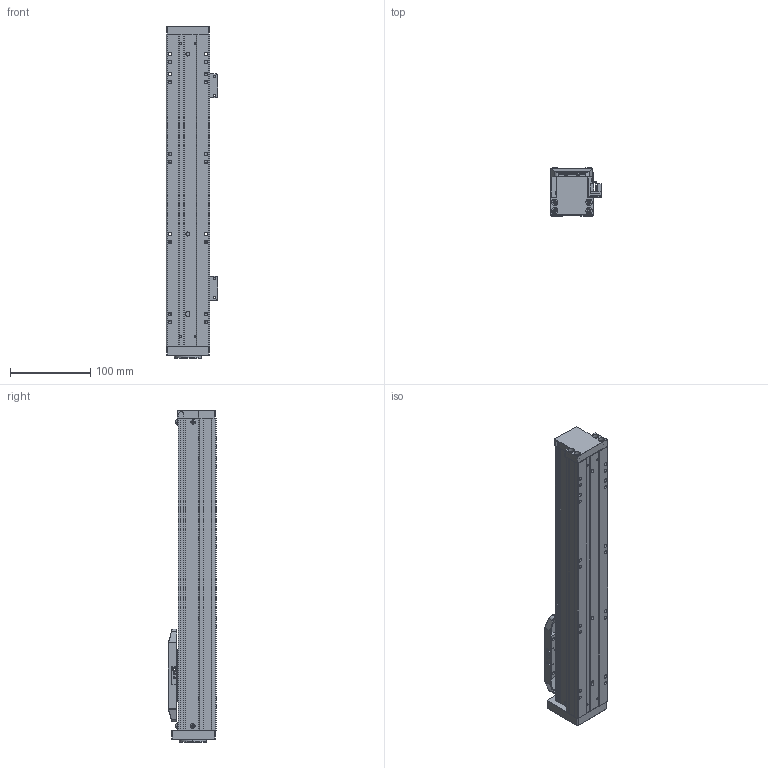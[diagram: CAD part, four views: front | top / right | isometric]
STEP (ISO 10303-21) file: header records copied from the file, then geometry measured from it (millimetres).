
FILE_DESCRIPTION (( 'STEP AP203' ), '1' );
FILE_NAME ('KTH5-L10-S250.STEP', '2019-12-19T08:18:49', ( '微软用户' ), ( '微软中国' ), 'SwSTEP 2.0', 'SolidWorks 2017', '' );
FILE_SCHEMA (( 'CONFIG_CONTROL_DESIGN' ));
Length unit declared in the file: millimetre
Products named in the file (16): GB╱T 70.2-2008[内六角平圆头螺钉M3×10]_M3×10; LES50-004賑釱; ヶ裔-党蜊唳; 耜啣; 粣創釱-郔笝唳20190813; 階裔; 嫖萇羲壽諉揖え; 棠沭; EE-SX674; LES50-013癹弇菜; EE-SX674WR嫖萇羲壽假蚾啣; 詩湍; KTH5-L10-S250; 詩湍揤啣; GB╱T 70.1-2008[内六角圆柱头螺钉M4×16]_M4×16; LES50-001菁釱
Assembly tree (31 placements, depth 2):
  KTH5-L10-S250
    LES50-001菁釱
    LES50-004賑釱
    耜啣  x2
    階裔
    棠沭  x2
    LES50-013癹弇菜  x2
    詩湍
    詩湍揤啣  x2
    GB╱T 70.1-2008[内六角圆柱头螺钉M4×16]_M4×16  x4
    GB╱T 70.2-2008[内六角平圆头螺钉M3×10]_M3×10  x8
    ヶ裔-党蜊唳
    粣創釱-郔笝唳20190813
    嫖萇羲壽諉揖え
    EE-SX674  x2
    EE-SX674WR嫖萇羲壽假蚾啣  x2
Bounding box: 64.25 x 60 x 415 mm (x, y, z)
Volume: 442161.4 mm3; surface area: 245393.4 mm2
Topology: 31 solids, 31 shells, 1381 faces, 3340 edges, 2048 vertices
Faces by surface type: plane 654, cylinder 439, cone 224, torus 36, sphere 16, bspline 12
Entity records: 31654 total; most frequent: CARTESIAN_POINT 5635, DIRECTION 5136, ORIENTED_EDGE 4764, EDGE_CURVE 2382, AXIS2_PLACEMENT_3D 1804, LINE 1528, VECTOR 1528, VERTEX_POINT 1513
